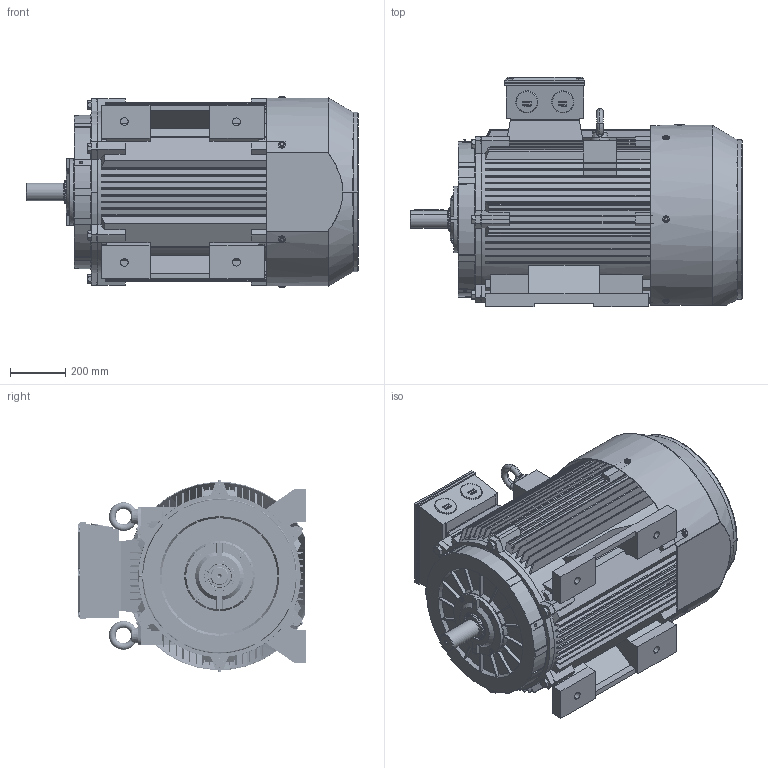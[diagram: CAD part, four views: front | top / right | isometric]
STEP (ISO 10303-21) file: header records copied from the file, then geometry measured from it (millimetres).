
FILE_DESCRIPTION (( 'STEP AP203' ), '1' );
FILE_NAME ('Motor-315S-2_B3_Step.STEP', '2024-06-26T08:43:45', ( '' ), ( '' ), 'SwSTEP 2.0', 'SolidWorks 2021', '' );
FILE_SCHEMA (( 'CONFIG_CONTROL_DESIGN' ));
Length unit declared in the file: millimetre
Products named in the file (22): M10-90_____^Motor-315S-2_B3_Step(2)_Motor-315S-2_B3_Step; TC 315-4_________^Motor-315S-2_B3_Step(2)_Motor-315S-2_B3_Step; ___________^Motor-315S-2_B3_Step(2)_Motor-315S-2_B3_Step; ____M30_____^Motor-315S-2_B3_Step(2)_Motor-315S-2_B3_Step; ____110-85-12_____^Motor-315S-2_B3_Step(2)_Motor-315S-2_B3_Step; TC 315_____________^Motor-315S-2_B3_Step(2)_Motor-315S-2_B3_Step; TX315___________________^Motor-315S-2_B3_Step(2)_Motor-315S-2_B3_Step; TC 315_____________-0^Motor-315S-2_B3_Step(2)_Motor-315S-2_B3_Step; M10-25_____^Motor-315S-2_B3_Step(2)_Motor-315S-2_B3_Step; ___________________^Motor-315S-2_B3_Step(2)_Motor-315S-2_B3_Step; _________^Motor-315S-2_B3_Step(2)_Motor-315S-2_B3_Step; TE315-2_____________^Motor-315S-2_B3_Step(2)_Motor-315S-2_B3_Step; TE315-2____0_____^Motor-315S-2_B3_Step(2)_Motor-315S-2_B3_Step; TC 315S-2 _______^Motor-315S-2_B3_Step(2)_Motor-315S-2_B3_Step; TE315-2_____________-1^Motor-315S-2_B3_Step(2)_Motor-315S-2_B3_Step; TC 315S ____ B3_____^Motor-315S-2_B3_Step(2)_Motor-315S-2_B3_Step; M20-70_____^Motor-315S-2_B3_Step(2)_Motor-315S-2_B3_Step; Motor-315S-2_B3_Step; TX315_______________^Motor-315S-2_B3_Step(2)_Motor-315S-2_B3_Step; TE315-2_________^Motor-315S-2_B3_Step(2)_Motor-315S-2_B3_Step; M63_________^Motor-315S-2_B3_Step(2)_Motor-315S-2_B3_Step; Motor-315S-2_B3_Step(2)^Motor-315S-2_B3_Step
Assembly tree (43 placements, depth 3):
  Motor-315S-2_B3_Step
    Motor-315S-2_B3_Step(2)^Motor-315S-2_B3_Step
      ____M30_____^Motor-315S-2_B3_Step(2)_Motor-315S-2_B3_Step  x2
      ___________________^Motor-315S-2_B3_Step(2)_Motor-315S-2_B3_Step  x6
      TX315___________________^Motor-315S-2_B3_Step(2)_Motor-315S-2_B3_Step
      M10-25_____^Motor-315S-2_B3_Step(2)_Motor-315S-2_B3_Step  x6
      TE315-2_________^Motor-315S-2_B3_Step(2)_Motor-315S-2_B3_Step  x2
      TC 315-4_________^Motor-315S-2_B3_Step(2)_Motor-315S-2_B3_Step
      TX315_______________^Motor-315S-2_B3_Step(2)_Motor-315S-2_B3_Step
      M10-90_____^Motor-315S-2_B3_Step(2)_Motor-315S-2_B3_Step  x4
      TC 315_____________^Motor-315S-2_B3_Step(2)_Motor-315S-2_B3_Step
      TC 315S-2 _______^Motor-315S-2_B3_Step(2)_Motor-315S-2_B3_Step
      ___________^Motor-315S-2_B3_Step(2)_Motor-315S-2_B3_Step
      M63_________^Motor-315S-2_B3_Step(2)_Motor-315S-2_B3_Step  x2
      M20-70_____^Motor-315S-2_B3_Step(2)_Motor-315S-2_B3_Step  x6
      TC 315S ____ B3_____^Motor-315S-2_B3_Step(2)_Motor-315S-2_B3_Step
      TC 315_____________-0^Motor-315S-2_B3_Step(2)_Motor-315S-2_B3_Step
      _________^Motor-315S-2_B3_Step(2)_Motor-315S-2_B3_Step
      TE315-2_____________^Motor-315S-2_B3_Step(2)_Motor-315S-2_B3_Step  x2
      TE315-2_____________-1^Motor-315S-2_B3_Step(2)_Motor-315S-2_B3_Step
      ____110-85-12_____^Motor-315S-2_B3_Step(2)_Motor-315S-2_B3_Step
      TE315-2____0_____^Motor-315S-2_B3_Step(2)_Motor-315S-2_B3_Step
Bounding box: 1201.99 x 829 x 694.6 mm (x, y, z)
Volume: 56279544.4 mm3; surface area: 10982274.7 mm2
Topology: 43 solids, 43 shells, 7747 faces, 21975 edges, 14457 vertices
Faces by surface type: plane 3968, cylinder 3037, cone 446, torus 206, bspline 86, sphere 4
Entity records: 246913 total; most frequent: CARTESIAN_POINT 59845, ORIENTED_EDGE 39254, DIRECTION 37984, EDGE_CURVE 19627, VERTEX_POINT 12973, AXIS2_PLACEMENT_3D 12920, VECTOR 12144, LINE 12144
